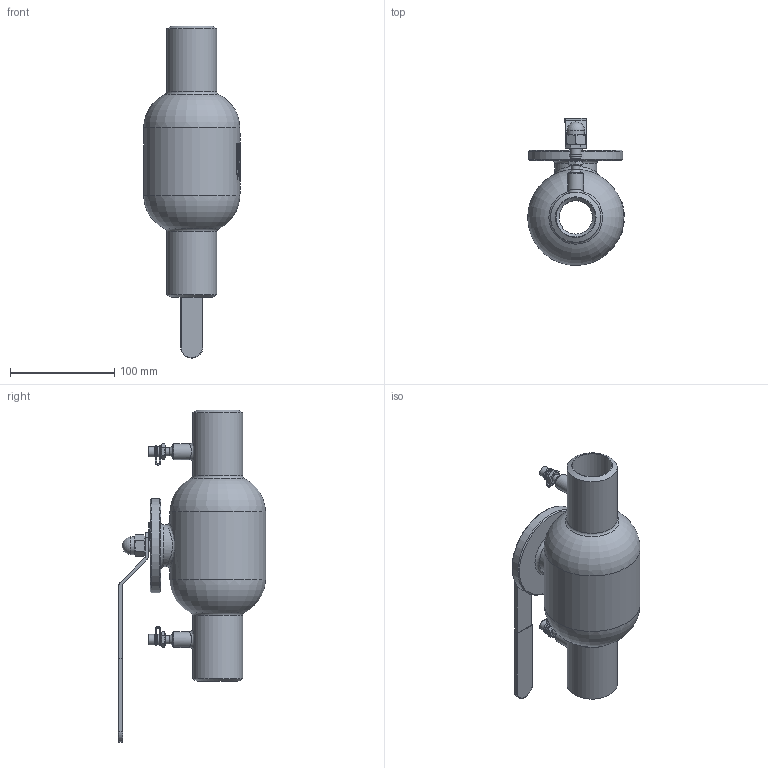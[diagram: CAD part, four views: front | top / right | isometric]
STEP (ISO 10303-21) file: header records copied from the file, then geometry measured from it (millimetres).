
FILE_DESCRIPTION(('STEP AP214'), '1');
FILE_NAME('BVR3232P-SP-W-H Êðàí øàðîâîé ðåãóëèðóþùèé DN.ru Äó40 Py40', '', ('UNSPECIFIED'), ('UNSPECIFIED'), 'C3D Converter', 'C3D Toolkit', '');
FILE_SCHEMA(('AUTOMOTIVE_DESIGN { 1 0 10303 214 3 1 1}'));
Length unit declared in the file: millimetre
Products named in the file (1): BVR3232P-SP-W-H
Bounding box: 92.5 x 141 x 318 mm (x, y, z)
Volume: 822082.4 mm3; surface area: 119453.1 mm2
Topology: 1 solids, 1 shells, 844 faces, 2171 edges, 1439 vertices
Faces by surface type: plane 424, bspline 177, extrusion 127, cylinder 88, cone 18, torus 9, sphere 1
Full cylindrical faces by diameter (mm): 8 x10, 10 x4, 12 x1, 15 x2, 17 x1, 32 x1, 38 x2, 40 x1, 48 x2, 90 x1, 92 x1
Entity records: 83170 total; most frequent: CARTESIAN_POINT 63184, ORIENTED_EDGE 4232, DIRECTION 2814, EDGE_CURVE 2116, VERTEX_POINT 1437, VECTOR 1214, LINE 1087, EDGE_LOOP 1013
